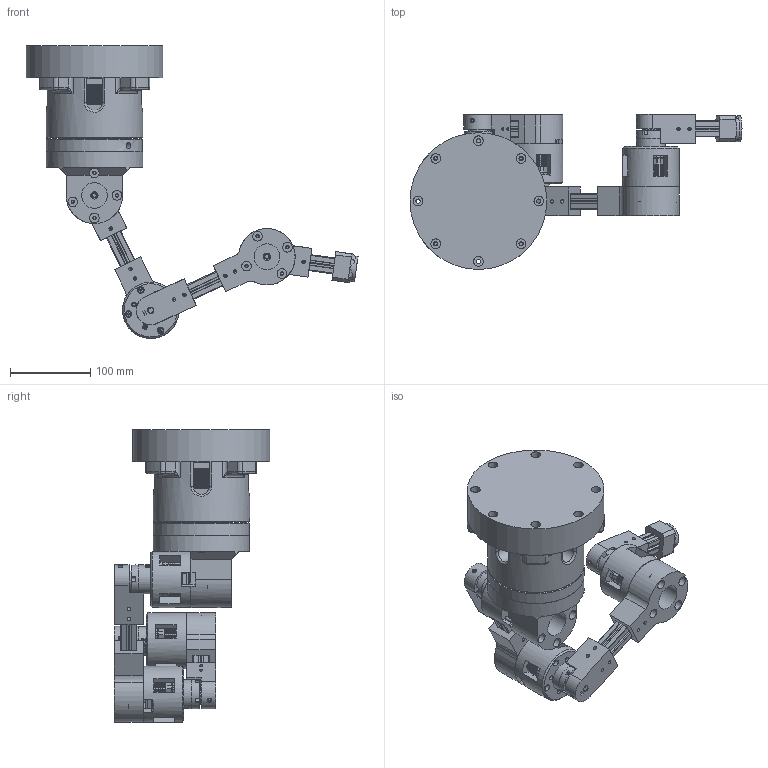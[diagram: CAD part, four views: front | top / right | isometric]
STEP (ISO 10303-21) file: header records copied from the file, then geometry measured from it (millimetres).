
FILE_DESCRIPTION(/* description */ (''),/* implementation_level */ '2;1');
FILE_NAME(/* name */ 'antropomorfo_nema_riduttore4.stp',/* time_stamp */ '2026-02-11T20:31:03+01:00',/* author */ ('R5800u'),/* organization */ (''),/* preprocessor_version */ 'ST-DEVELOPER v20',/* originating_system */ 'Autodesk Inventor 2025',/* authorisation */ '');
FILE_SCHEMA (('AUTOMOTIVE_DESIGN { 1 0 10303 214 3 1 1 }'));
Products named in the file (23): Assieme_bracci_nema_riduttore3; tslot-20x20-3; blocco_nema_riduttore2; blocco_nema_riduttore; riduttore_nema17_3; blocco_base; tslot-20x20-5; blocco_nema_riduttore2_1; NEMA 42SHDC3030Z; blocco_nema; ANSI B18.3.1M - M4x0,7 x 50, FSHCSM; blocco_albero; riduttore_nema17; blocco_nema2; tslot-20x20-4; terminale; NEMA 17HS4401S-PG518; base_01; base_ferro; ISO 104 - 1 11 50 x 70 x 14; blocco_alto_base; AS 1112 - M5  Tipo 5; ANSI B18.3.1M - M5x0,8 x 30, FSHCSM
Assembly tree (51 placements, depth 3):
  Assieme_bracci_nema_riduttore3
    tslot-20x20-3
    blocco_nema_riduttore2
      NEMA 42SHDC3030Z
      blocco_nema
      ANSI B18.3.1M - M4x0,7 x 50, FSHCSM  x4
      blocco_albero
      riduttore_nema17
    blocco_nema_riduttore
      NEMA 42SHDC3030Z
      blocco_nema
      ANSI B18.3.1M - M4x0,7 x 50, FSHCSM  x4
      blocco_albero
      riduttore_nema17_3
    blocco_base
    tslot-20x20-5
    blocco_nema2  x2
    blocco_nema_riduttore2_1
      NEMA 42SHDC3030Z
      blocco_nema
      ANSI B18.3.1M - M4x0,7 x 50, FSHCSM  x4
      blocco_albero
      riduttore_nema17
    tslot-20x20-4
    terminale
    NEMA 17HS4401S-PG518
    base_01
    base_ferro
    ISO 104 - 1 11 50 x 70 x 14
    blocco_alto_base
    AS 1112 - M5  Tipo 5  x4
    ANSI B18.3.1M - M5x0,8 x 30, FSHCSM  x8
Bounding box: 412.52 x 193.09 x 363.97 mm (x, y, z)
Volume: 3221165.7 mm3; surface area: 601101 mm2
Topology: 75 solids, 75 shells, 5232 faces, 13037 edges, 8104 vertices
Faces by surface type: plane 4122, cylinder 648, cone 143, torus 131, bspline 108, sphere 80
Full cylindrical faces by diameter (mm): 1.6 x2, 3 x24, 3.2 x58, 4 x12, 4.134 x4, 4.2 x3, 4.3 x58, 4.68 x8, 5 x12, 5.3 x20, 5.7 x3, 5.75 x8, 5.8 x12, 6.5 x12, 7 x16, 8 x20, 8.1 x1, 8.2 x3, 8.5 x8, 10 x7, 12 x20, 14 x4, 16 x3, 19 x1, 20 x1, 22 x10, 23 x1, 32 x4, 35.8 x3, 36 x8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
Entity records: 94803 total; most frequent: CARTESIAN_POINT 19594, ORIENTED_EDGE 14950, DIRECTION 14519, EDGE_CURVE 7475, LINE 5983, VECTOR 5983, VERTEX_POINT 4751, AXIS2_PLACEMENT_3D 4268
